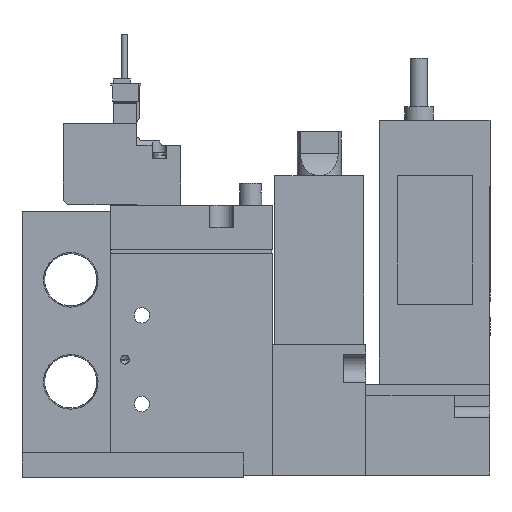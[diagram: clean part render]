
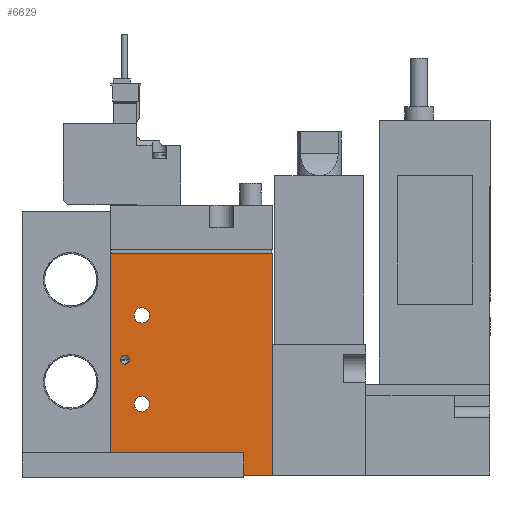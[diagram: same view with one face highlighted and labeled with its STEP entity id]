
A CAD part, left-side view. The second image highlights one B-rep face of the part: STEP entity #6629.
In plain terms, the highlighted planar face has unit normal (-1, 0, 0) as drawn and (1, 0, 0) by its records, which use the part's own axes.
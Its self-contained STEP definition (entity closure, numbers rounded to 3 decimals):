
#6629=ADVANCED_FACE('',(#10846,#10847,#10848,#10849),#10850,.F.);
#10846=FACE_BOUND('',#17838,.T.);
#10847=FACE_BOUND('',#17839,.T.);
#10848=FACE_BOUND('',#17840,.T.);
#10849=FACE_OUTER_BOUND('',#17841,.T.);
#10850=PLANE('',#17842);
#17838=EDGE_LOOP('',(#28530));
#17839=EDGE_LOOP('',(#28531));
#17840=EDGE_LOOP('',(#28532));
#17841=EDGE_LOOP('',(#28533,#28534,#28535,#28536));
#17842=AXIS2_PLACEMENT_3D('',#28537,#28538,#28539);
#28530=ORIENTED_EDGE('',*,*,#48247,.F.);
#28531=ORIENTED_EDGE('',*,*,#48249,.T.);
#28532=ORIENTED_EDGE('',*,*,#48250,.T.);
#28533=ORIENTED_EDGE('',*,*,#48240,.T.);
#28534=ORIENTED_EDGE('',*,*,#48237,.F.);
#28535=ORIENTED_EDGE('',*,*,#48241,.F.);
#28536=ORIENTED_EDGE('',*,*,#48233,.T.);
#28537=CARTESIAN_POINT('',(8.5,-19.444,50.0));
#28538=DIRECTION('',(-1.0,0.0,0.0));
#28539=DIRECTION('',(0.0,0.0,1.0));
#48233=EDGE_CURVE('',#56700,#56698,#56701,.T.);
#48237=EDGE_CURVE('',#56705,#56703,#56707,.T.);
#48240=EDGE_CURVE('',#56698,#56703,#56712,.T.);
#48241=EDGE_CURVE('',#56700,#56705,#56713,.T.);
#48247=EDGE_CURVE('',#56722,#56722,#56723,.T.);
#48249=EDGE_CURVE('',#56724,#56724,#56725,.T.);
#48250=EDGE_CURVE('',#56726,#56726,#56727,.T.);
#56698=VERTEX_POINT('',#70720);
#56700=VERTEX_POINT('',#70723);
#56701=LINE('',#70724,#70725);
#56703=VERTEX_POINT('',#70728);
#56705=VERTEX_POINT('',#70731);
#56707=LINE('',#70734,#70735);
#56712=LINE('',#70740,#70741);
#56713=LINE('',#70742,#70743);
#56722=VERTEX_POINT('',#70752);
#56723=CIRCLE('',#70753,1.0);
#56724=VERTEX_POINT('',#70754);
#56725=CIRCLE('',#70755,1.75);
#56726=VERTEX_POINT('',#70756);
#56727=CIRCLE('',#70757,1.75);
#70720=CARTESIAN_POINT('',(8.5,-19.444,0.0));
#70723=CARTESIAN_POINT('',(8.5,-19.444,50.0));
#70724=CARTESIAN_POINT('',(8.5,-19.444,50.0));
#70725=VECTOR('',#87504,1.0);
#70728=CARTESIAN_POINT('',(8.5,17.056,0.0));
#70731=CARTESIAN_POINT('',(8.5,17.056,50.0));
#70734=CARTESIAN_POINT('',(8.5,17.056,50.0));
#70735=VECTOR('',#87508,1.0);
#70740=CARTESIAN_POINT('',(8.5,-19.444,0.0));
#70741=VECTOR('',#87515,1.0);
#70742=CARTESIAN_POINT('',(8.5,-19.444,50.0));
#70743=VECTOR('',#87516,1.0);
#70752=CARTESIAN_POINT('',(8.5,-17.244,26.0));
#70753=AXIS2_PLACEMENT_3D('',#87529,#87530,#87531);
#70754=CARTESIAN_POINT('',(8.5,-10.694,36.0));
#70755=AXIS2_PLACEMENT_3D('',#87532,#87533,#87534);
#70756=CARTESIAN_POINT('',(8.5,-10.694,16.0));
#70757=AXIS2_PLACEMENT_3D('',#87535,#87536,#87537);
#87504=DIRECTION('',(0.0,0.0,-1.0));
#87508=DIRECTION('',(0.0,0.0,-1.0));
#87515=DIRECTION('',(0.0,1.0,0.0));
#87516=DIRECTION('',(0.0,1.0,0.0));
#87529=CARTESIAN_POINT('',(8.5,-16.244,26.0));
#87530=DIRECTION('',(1.0,0.,0.0));
#87531=DIRECTION('',(0.,-1.0,0.0));
#87532=CARTESIAN_POINT('',(8.5,-12.444,36.0));
#87533=DIRECTION('',(-1.0,0.0,0.0));
#87534=DIRECTION('',(0.0,1.0,0.0));
#87535=CARTESIAN_POINT('',(8.5,-12.444,16.0));
#87536=DIRECTION('',(-1.0,0.0,0.0));
#87537=DIRECTION('',(0.0,1.0,0.0));
